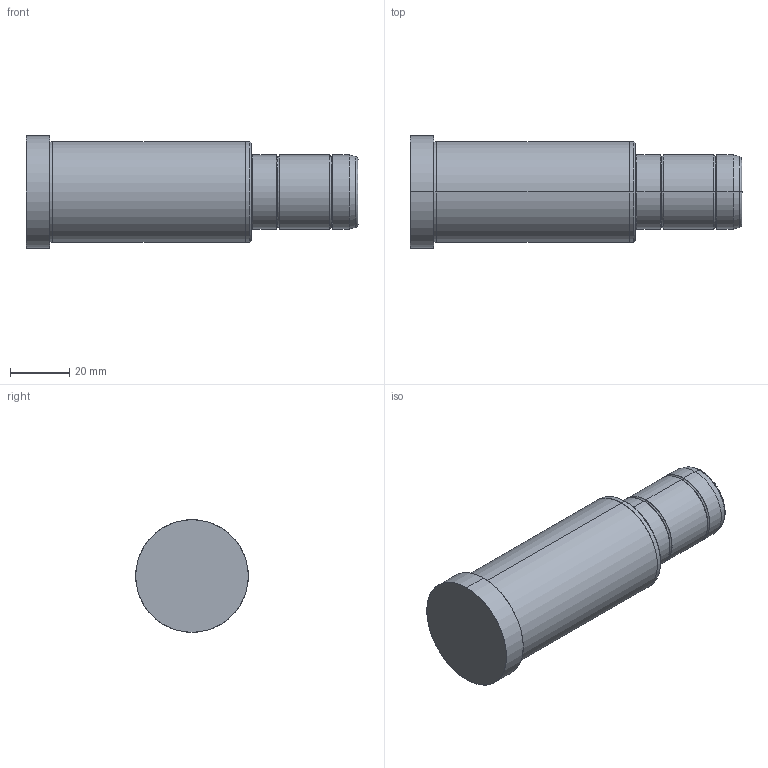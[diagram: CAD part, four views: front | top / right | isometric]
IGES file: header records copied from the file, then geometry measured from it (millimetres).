
Start section: SolidWorks IGES file using analytic representation for surfaces
Global section: file name: C:\Documents and Settings\kalite-mail\Desktop\IGS\D02\25\D02 - 25x76x36.IGS; native system: SolidWorks 2008; preprocessor: SolidWorks 2008; author: kalite-mail; date: 080616.175443; units: millimetre
Bounding box: 112 x 38 x 38 mm (x, y, z)
Surface area: 13277.8 mm2 (no closed solid volume)
Topology: 0 solids, 0 shells, 36 faces, 696 edges, 696 vertices
Faces by surface type: bspline 18, revolution 18
